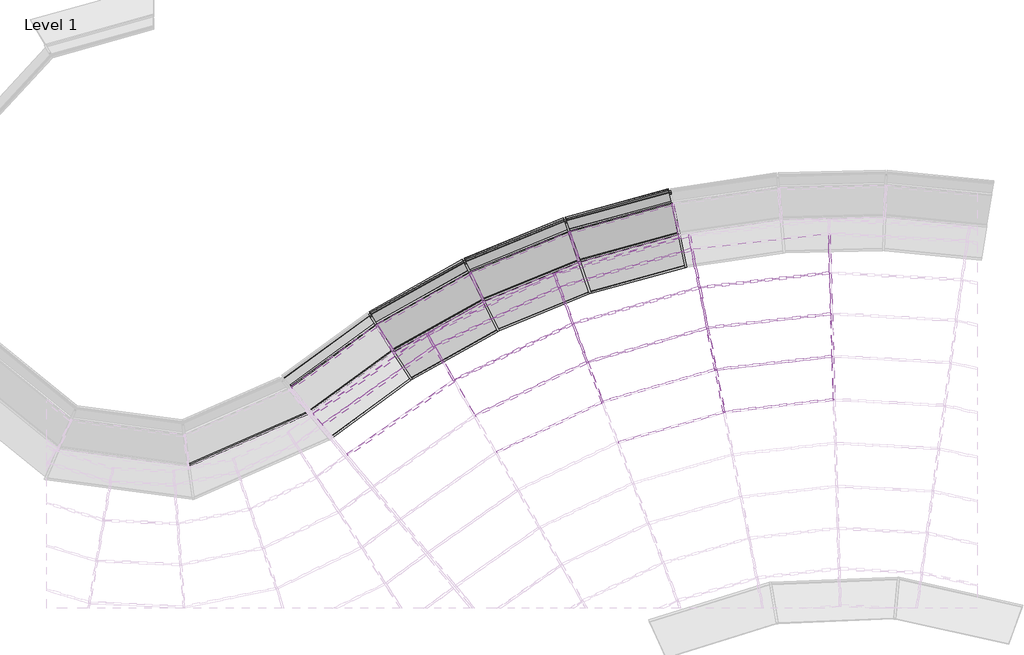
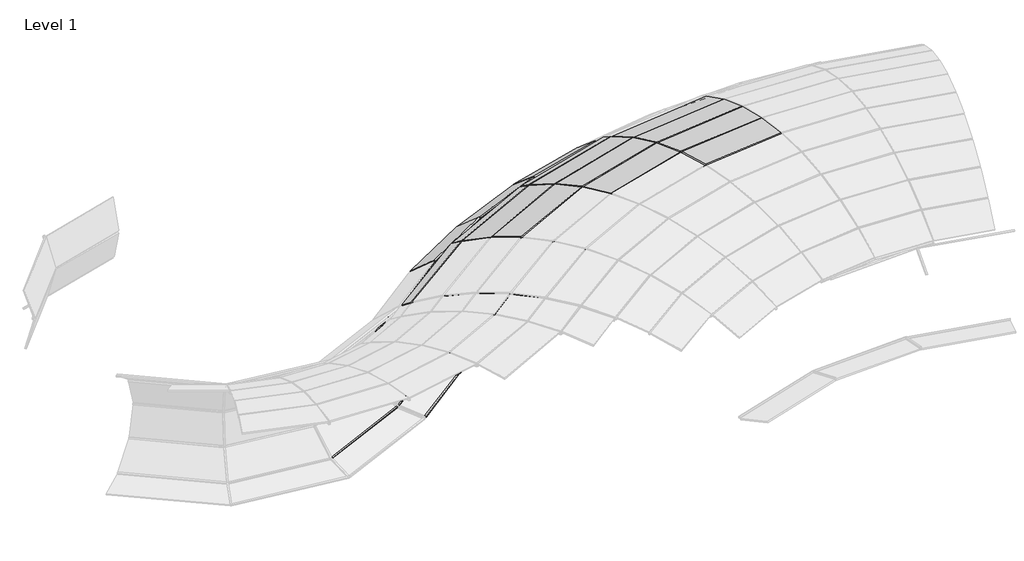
# One storey, part 9 of 23: 75 members, 27 plates.
"""IFC4 building model written with IfcOpenShell, lengths in millimetres."""

from ifc_helpers import new_model, si_unit, origin, place, context, project, spatial, transform, mapped, element, save
from components import member_0cd36c09, member_d0a40a1c, member_ff9adfd2, member_c628317b, member_6de91377, member_1c681369, member_2317d74f, member_20199af6, member_3d776555, member_f0155a20, member_c9893ebc, member_775132e8, member_8c9da58c, member_391bee44, member_01ebdf2a, member_d6b8231b, member_b171f0c8, member_cca2ed68, member_07455e61, member_515abc7c, member_13d284af, member_42775d8c, member_6834bcaf, member_93a8f3f7, member_a3fa0b53, member_9aefb50d, member_b335b832, member_cb0bb3a9, system_panel_glazed_1b2c1e4f, system_panel_glazed_33c7ebbf, system_panel_glazed_ea272296, system_panel_glazed_e73c3b5f, system_panel_glazed_61039f9e, system_panel_glazed_c38b7309, system_panel_glazed_e73b46dd, system_panel_glazed_e5225984, system_panel_glazed_94c3709e, system_panel_glazed_130e820a, system_panel_glazed_5e04bf78

model = new_model("IFC4")

# Units and contexts
model_context = context("Model", 3, world=origin())
ifc_project = project(units=[si_unit("LENGTHUNIT", "METRE", prefix="MILLI")], contexts=[model_context])

# Site, building, storey
site = spatial("IfcSite", under=ifc_project)
building = spatial("IfcBuilding", under=site)
storey = spatial("IfcBuildingStorey", under=building, Name="Level 1", Elevation=0.0)

# Members
placement = place(None, origin())
member_shape = member_0cd36c09(model_context)
element("IfcMember", 1, ObjectType="Rectangular Mullion : 1\" Square", at=placement, inside=storey, context=model_context, shape_type="MappedRepresentation", body=[
    mapped(member_shape, transform((-3625.4286612, -3828.1534303, 2806.2019711), x_axis=(0.9355040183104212, 0.35331605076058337, 0.0), y_axis=(-0.07543399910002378, 0.19973281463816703, 0.9769424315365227), z_axis=(0.34516944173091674, -0.913933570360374, 0.2135028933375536))),
])
element("IfcMember", 2, ObjectType="Rectangular Mullion : 1\" Square", at=placement, inside=storey, context=model_context, shape_type="MappedRepresentation", body=[
    mapped(member_shape, transform((-3835.8439528, -3271.0195258, 2676.0506073), x_axis=(0.9355040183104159, 0.35331605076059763, 0.0), y_axis=(-0.11599393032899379, 0.30712668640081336, 0.944573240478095), z_axis=(0.3337328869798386, -0.883652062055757, 0.3283007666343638))),
])
element("IfcMember", 3, ObjectType="Rectangular Mullion : 1\" Square", at=placement, inside=storey, context=model_context, shape_type="MappedRepresentation", body=[
    mapped(member_shape, transform((-1916.2332952, -3968.8634799, 2864.5209769), x_axis=(0.9809843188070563, 0.19408700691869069, 0.0), y_axis=(-0.01856784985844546, 0.09384847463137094, 0.9954133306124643), z_axis=(0.19319679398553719, -0.9764848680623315, 0.09566766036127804))),
])
element("IfcMember", 4, ObjectType="Rectangular Mullion : 1\" Square", at=placement, inside=storey, context=model_context, shape_type="MappedRepresentation", body=[
    mapped(member_shape, transform((-2034.0060608, -3373.5983043, 2806.2019711), x_axis=(0.9809843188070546, 0.19408700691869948, 0.0), y_axis=(-0.041438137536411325, 0.2094429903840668, 0.9769424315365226), z_axis=(0.1896118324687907, -0.9583652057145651, 0.21350289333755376))),
])
element("IfcMember", 5, ObjectType="Rectangular Mullion : 1\" Square", at=placement, inside=storey, context=model_context, shape_type="MappedRepresentation", body=[
    mapped(member_shape, transform((-2149.5934339, -2789.3788749, 2676.0506073), x_axis=(0.9809843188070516, 0.19408700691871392, 0.0), y_axis=(-0.06371891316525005, 0.3220579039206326, 0.9445732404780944), z_axis=(0.18332939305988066, -0.9266115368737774, 0.32830076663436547))),
])
element("IfcMember", 6, ObjectType="Rectangular Mullion : 1\" Square", at=placement, inside=storey, context=model_context, shape_type="MappedRepresentation", body=[
    mapped(member_shape, transform((-371.466913, -3794.4447118, 2864.5209769), x_axis=(0.9995637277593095, 0.029535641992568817, 0.0), y_axis=(-0.002825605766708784, 0.09562592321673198, 0.9954133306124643), z_axis=(0.029400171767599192, -0.9949790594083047, 0.09566766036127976))),
])
element("IfcMember", 7, ObjectType="Rectangular Mullion : 1\" Square", at=placement, inside=storey, context=model_context, shape_type="MappedRepresentation", body=[
    mapped(member_shape, transform((-389.3892577, -3187.9054772, 2806.2019711), x_axis=(0.9995637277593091, 0.02953564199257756, 0.0), y_axis=(-0.0063059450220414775, 0.213409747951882, 0.9769424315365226), z_axis=(0.02885462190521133, -0.9765162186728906, 0.2135028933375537))),
])
element("IfcMember", 8, ObjectType="Rectangular Mullion : 1\" Square", at=placement, inside=storey, context=model_context, shape_type="MappedRepresentation", body=[
    mapped(member_shape, transform((-406.9790352, -2592.6211903, 2676.0506073), x_axis=(0.9995637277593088, 0.02953564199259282, 0.0), y_axis=(-0.0096965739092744, 0.3281575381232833, 0.9445732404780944), z_axis=(0.02789857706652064, -0.9441611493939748, 0.3283007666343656))),
])
member_2_shape = member_d0a40a1c(model_context)
element("IfcMember", 9, ObjectType="Rectangular Mullion : 1\" Square", at=placement, inside=storey, context=model_context, shape_type="MappedRepresentation", body=[
    mapped(member_2_shape, transform((-5709.0402844, -3526.6209381, 2475.91846), x_axis=(0.8643700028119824, 0.5028563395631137, 0.0), y_axis=(-0.22046636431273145, 0.378964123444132, 0.898766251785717), z_axis=(0.4519503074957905, -0.7768665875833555, 0.4384281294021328))),
])
element("IfcMember", 10, ObjectType="Rectangular Mullion : 1\" Square", at=placement, inside=storey, context=model_context, shape_type="MappedRepresentation", body=[
    mapped(member_2_shape, transform((-4039.2875207, -2732.3452287, 2475.91846), x_axis=(0.9355040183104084, 0.35331605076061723, 0.0), y_axis=(-0.15490369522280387, 0.4101512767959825, 0.8987662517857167), z_axis=(0.3175485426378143, -0.8407994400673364, 0.43842812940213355))),
])
element("IfcMember", 11, ObjectType="Rectangular Mullion : 1\" Square", at=placement, inside=storey, context=model_context, shape_type="MappedRepresentation", body=[
    mapped(member_2_shape, transform((-2261.3510319, -2224.516482, 2475.91846), x_axis=(0.9809843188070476, 0.19408700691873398, 0.0), y_axis=(-0.08509320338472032, 0.4300911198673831, 0.8987662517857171), z_axis=(0.17443885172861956, -0.881675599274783, 0.43842812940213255))),
])
element("IfcMember", 12, ObjectType="Rectangular Mullion : 1\" Square", at=placement, inside=storey, context=model_context, shape_type="MappedRepresentation", body=[
    mapped(member_2_shape, transform((-423.9860078, -2017.0605536, 2475.91846), x_axis=(0.9995637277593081, 0.029535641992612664, 0.0), y_axis=(-0.012949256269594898, 0.4382368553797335, 0.898766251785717), z_axis=(0.026545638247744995, -0.8983741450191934, 0.43842812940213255))),
])
member_3_shape = member_ff9adfd2(model_context)
element("IfcMember", 13, ObjectType="Rectangular Mullion : 1\" Square", at=placement, inside=storey, context=model_context, shape_type="MappedRepresentation", body=[
    mapped(member_3_shape, transform((-5984.5491919, -3053.0430663, 2208.6526723), x_axis=(0.8643700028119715, 0.5028563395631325, 0.0), y_axis=(-0.25726402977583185, 0.44221637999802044, 0.8592205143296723), z_axis=(0.43206448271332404, -0.7426844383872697, 0.5116054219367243))),
])
element("IfcMember", 14, ObjectType="Rectangular Mullion : 1\" Square", at=placement, inside=storey, context=model_context, shape_type="MappedRepresentation", body=[
    mapped(member_3_shape, transform((-4232.8651123, -2219.7938901, 2208.6526723), x_axis=(0.9355040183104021, 0.353316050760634, 0.0), y_axis=(-0.18075840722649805, 0.4786089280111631, 0.8592205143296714), z_axis=(0.30357639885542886, -0.8038042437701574, 0.5116054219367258))),
])
element("IfcMember", 15, ObjectType="Rectangular Mullion : 1\" Square", at=placement, inside=storey, context=model_context, shape_type="MappedRepresentation", body=[
    mapped(member_3_shape, transform((-2367.6889559, -1687.0470367, 2208.6526723), x_axis=(0.9809843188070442, 0.19408700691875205, 0.0), y_axis=(-0.09929596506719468, 0.5018768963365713, 0.8592205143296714), z_axis=(0.1667635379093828, -0.8428818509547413, 0.5116054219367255))),
])
member_4_shape = member_c628317b(model_context)
element("IfcMember", 16, ObjectType="Rectangular Mullion : 1\" Square", at=placement, inside=storey, context=model_context, shape_type="MappedRepresentation", body=[
    mapped(member_4_shape, transform((-1928.4449271, -3972.3514659, 2864.5209769), x_axis=(-0.274468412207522, 0.9609290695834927, -0.03581080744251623), y_axis=(-0.009835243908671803, 0.03443373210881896, 0.999358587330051), z_axis=(0.9615458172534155, 0.2746445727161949, 0.0))),
])
element("IfcMember", 17, ObjectType="Rectangular Mullion : 1\" Square", at=placement, inside=storey, context=model_context, shape_type="MappedRepresentation", body=[
    mapped(member_4_shape, transform((-384.0867255, -3795.8696083, 2864.5209769), x_axis=(-0.11212460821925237, 0.993048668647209, -0.03581080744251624), y_axis=(-0.004017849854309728, 0.035584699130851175, 0.9993585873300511), z_axis=(0.9936860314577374, 0.1121965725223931, 0.0))),
])
member_5_shape = member_6de91377(model_context)
element("IfcMember", 18, ObjectType="Rectangular Mullion : 1\" Square", at=placement, inside=storey, context=model_context, shape_type="MappedRepresentation", body=[
    mapped(member_5_shape, transform((-3636.8972407, -3833.6088572, 2806.2019711), x_axis=(-0.42442622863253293, 0.8922429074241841, -0.154158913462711), y_axis=(-0.06622068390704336, 0.13921132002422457, 0.9880460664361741), z_axis=(0.9030377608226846, 0.42956117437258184, 0.0))),
])
element("IfcMember", 19, ObjectType="Rectangular Mullion : 1\" Square", at=placement, inside=storey, context=model_context, shape_type="MappedRepresentation", body=[
    mapped(member_5_shape, transform((-2046.2176927, -3377.0862904, 2806.2019711), x_axis=(-0.2713614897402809, 0.9500515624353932, -0.1541589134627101), y_axis=(-0.042338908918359, 0.14823085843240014, 0.9880460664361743), z_axis=(0.9615458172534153, 0.27464457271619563, 0.0))),
])
element("IfcMember", 20, ObjectType="Rectangular Mullion : 1\" Square", at=placement, inside=storey, context=model_context, shape_type="MappedRepresentation", body=[
    mapped(member_5_shape, transform((-402.0090703, -3189.3303737, 2806.2019711), x_axis=(-0.11085538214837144, 0.9818075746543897, -0.1541589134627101), y_axis=(-0.01729610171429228, 0.1531855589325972, 0.9880460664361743), z_axis=(0.9936860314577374, 0.11219657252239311, 0.0))),
])
member_6_shape = member_1c681369(model_context)
element("IfcMember", 21, ObjectType="Rectangular Mullion : 1\" Square", at=placement, inside=storey, context=model_context, shape_type="MappedRepresentation", body=[
    mapped(member_6_shape, transform((-3847.3125324, -3276.4749527, 2676.0506073), x_axis=(-0.4135643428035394, 0.8694086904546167, -0.2703572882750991), y_axis=(-0.11613499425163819, 0.24414284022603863, 0.9627600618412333), z_axis=(0.9030377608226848, 0.4295611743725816, 0.0))),
])
element("IfcMember", 22, ObjectType="Rectangular Mullion : 1\" Square", at=placement, inside=storey, context=model_context, shape_type="MappedRepresentation", body=[
    mapped(member_6_shape, transform((-2161.8050658, -2792.866861, 2676.0506073), x_axis=(-0.2644168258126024, 0.9257379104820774, -0.2703572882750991), y_axis=(-0.07425216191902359, 0.25996091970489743, 0.9627600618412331), z_axis=(0.9615458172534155, 0.27464457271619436, 0.0))),
])
element("IfcMember", 23, ObjectType="Rectangular Mullion : 1\" Square", at=placement, inside=storey, context=model_context, shape_type="MappedRepresentation", body=[
    mapped(member_6_shape, transform((-419.5988478, -2594.0460868, 2676.0506073), x_axis=(-0.10801837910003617, 0.9566812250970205, -0.27035728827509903), y_axis=(-0.030333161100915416, 0.2686502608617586, 0.9627600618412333), z_axis=(0.993686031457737, 0.11219657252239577, 0.0))),
])
member_7_shape = member_2317d74f(model_context)
element("IfcMember", 24, ObjectType="Rectangular Mullion : 1\" Square", at=placement, inside=storey, context=model_context, shape_type="MappedRepresentation", body=[
    mapped(member_7_shape, transform((-5719.4513163, -3533.8942053, 2475.91846), x_axis=(-0.5290813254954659, 0.7573326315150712, -0.3827796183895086), y_axis=(-0.21921719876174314, 0.31378982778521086, 0.9238396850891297), z_axis=(0.8197662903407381, 0.5726982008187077, 0.0))),
])
member_8_shape = member_20199af6(model_context)
element("IfcMember", 25, ObjectType="Rectangular Mullion : 1\" Square", at=placement, inside=storey, context=model_context, shape_type="MappedRepresentation", body=[
    mapped(member_8_shape, transform((-4050.7561003, -2737.8006557, 2475.91846), x_axis=(-0.3968456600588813, 0.834262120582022, -0.3827796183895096), y_axis=(-0.16442726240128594, 0.34566444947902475, 0.9238396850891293), z_axis=(0.9030377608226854, 0.4295611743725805, 0.0))),
])
element("IfcMember", 26, ObjectType="Rectangular Mullion : 1\" Square", at=placement, inside=storey, context=model_context, shape_type="MappedRepresentation", body=[
    mapped(member_8_shape, transform((-2273.5626638, -2228.0044681, 2475.91846), x_axis=(-0.253727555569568, 0.8883141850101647, -0.38277961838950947), y_axis=(-0.10512834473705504, 0.3680601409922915, 0.9238396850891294), z_axis=(0.9615458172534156, 0.274644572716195, 0.0))),
])
element("IfcMember", 27, ObjectType="Rectangular Mullion : 1\" Square", at=placement, inside=storey, context=model_context, shape_type="MappedRepresentation", body=[
    mapped(member_8_shape, transform((-436.6058204, -2018.4854501, 2475.91846), x_axis=(-0.10365164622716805, 0.9180065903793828, -0.3827796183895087), y_axis=(-0.04294656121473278, 0.38036275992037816, 0.9238396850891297), z_axis=(0.9936860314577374, 0.1121965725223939, 0.0))),
])
member_9_shape = member_3d776555(model_context)
element("IfcMember", 28, ObjectType="Rectangular Mullion : 1\" Square", at=placement, inside=storey, context=model_context, shape_type="MappedRepresentation", body=[
    mapped(member_9_shape, transform((-5994.9602237, -3060.3163335, 2208.6526723), x_axis=(-0.49928391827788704, 0.7146803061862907, -0.4898444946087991), y_axis=(-0.28053306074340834, 0.401558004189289, 0.871809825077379), z_axis=(0.819766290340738, 0.5726982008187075, 0.0))),
])
member_10_shape = member_f0155a20(model_context)
element("IfcMember", 29, ObjectType="Rectangular Mullion : 1\" Square", at=placement, inside=storey, context=model_context, shape_type="MappedRepresentation", body=[
    mapped(member_10_shape, transform((-4244.3336919, -2225.249317, 2208.6526723), x_axis=(-0.3744956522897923, 0.7872771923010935, -0.4898444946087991), y_axis=(-0.21041817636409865, 0.44234807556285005, 0.871809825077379), z_axis=(0.9030377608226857, 0.42956117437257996, 0.0))),
])
element("IfcMember", 30, ObjectType="Rectangular Mullion : 1\" Square", at=placement, inside=storey, context=model_context, shape_type="MappedRepresentation", body=[
    mapped(member_10_shape, transform((-2379.9005878, -1690.5350228, 2208.6526723), x_axis=(-0.23943783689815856, 0.8382850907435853, -0.4898444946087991), y_axis=(-0.13453313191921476, 0.4710079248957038, 0.871809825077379), z_axis=(0.9615458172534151, 0.2746445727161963, 0.0))),
])
member_11_shape = member_c9893ebc(model_context)
element("IfcMember", 31, ObjectType="Rectangular Mullion : 1\" Square", at=placement, inside=storey, context=model_context, shape_type="MappedRepresentation", body=[
    mapped(member_11_shape, transform((-6098.873932, -2881.6969442, 2085.6089632), x_axis=(-0.4916301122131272, 0.7037245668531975, -0.512905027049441), y_axis=(-0.29373978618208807, 0.42046225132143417, 0.8584453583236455), z_axis=(0.8197662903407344, 0.5726982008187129, 0.0))),
])
member_12_shape = member_775132e8(model_context)
element("IfcMember", 32, ObjectType="Rectangular Mullion : 1\" Square", at=placement, inside=storey, context=model_context, shape_type="MappedRepresentation", body=[
    mapped(member_12_shape, transform((-4317.3453617, -2031.9303033, 2085.6089632), x_axis=(-0.36875479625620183, 0.7752085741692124, -0.5129050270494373), y_axis=(-0.22032408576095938, 0.4631726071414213, 0.8584453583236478), z_axis=(0.9030377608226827, 0.42956117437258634, 0.0))),
])
element("IfcMember", 33, ObjectType="Rectangular Mullion : 1\" Square", at=placement, inside=storey, context=model_context, shape_type="MappedRepresentation", body=[
    mapped(member_12_shape, transform((-2420.0080679, -1487.8176455, 2085.6089632), x_axis=(-0.2357673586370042, 0.8254345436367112, -0.5129050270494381), y_axis=(-0.1408665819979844, 0.4931816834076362, 0.8584453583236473), z_axis=(0.9615458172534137, 0.27464457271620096, 0.0))),
])
member_13_shape = member_8c9da58c(model_context)
element("IfcMember", 34, ObjectType="Rectangular Mullion : 1\" Square", at=placement, inside=storey, context=model_context, shape_type="MappedRepresentation", body=[
    mapped(member_13_shape, transform((-4148.8580129, -1273.5549918, 1116.1918244), x_axis=(0.9466000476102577, 0.3224102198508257, 0.0), y_axis=(-0.31176891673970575, 0.9153570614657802, -0.2547971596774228), z_axis=(-0.08214920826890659, 0.24119100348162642, 0.9669945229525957))),
])
element("IfcMember", 35, ObjectType="Rectangular Mullion : 1\" Square", at=placement, inside=storey, context=model_context, shape_type="MappedRepresentation", body=[
    mapped(member_13_shape, transform((-2638.2286101, -1052.286179, 1696.6281859), x_axis=(0.9786921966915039, 0.2053328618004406, 0.0), y_axis=(-0.1955096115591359, 0.9318709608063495, 0.30560187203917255), z_axis=(0.06275010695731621, -0.2990901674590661, 0.9521593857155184))),
])
element("IfcMember", 36, ObjectType="Rectangular Mullion : 1\" Square", at=placement, inside=storey, context=model_context, shape_type="MappedRepresentation", body=[
    mapped(member_13_shape, transform((-6792.8117504, -2755.2417461, 1696.6281859), x_axis=(0.8412441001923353, 0.5406554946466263, 0.0), y_axis=(-0.5147902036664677, 0.8009984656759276, 0.30560187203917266), z_axis=(0.16522533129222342, -0.2570857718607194, 0.9521593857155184))),
])
element("IfcMember", 37, ObjectType="Rectangular Mullion : 1\" Square", at=placement, inside=storey, context=model_context, shape_type="MappedRepresentation", body=[
    mapped(member_13_shape, transform((-6893.5331124, -2598.5222596, 1116.1918244), x_axis=(0.8412441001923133, 0.5406554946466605, 0.0), y_axis=(-0.5228109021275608, 0.8134784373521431, -0.2547971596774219), z_axis=(-0.13775748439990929, 0.21434660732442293, 0.9669945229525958))),
])
element("IfcMember", 38, ObjectType="Rectangular Mullion : 1\" Square", at=placement, inside=storey, context=model_context, shape_type="MappedRepresentation", body=[
    mapped(member_13_shape, transform((-5480.4921682, -2020.3558732, 1696.6281859), x_axis=(0.9005578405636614, 0.4347362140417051, 0.0), y_axis=(-0.4139381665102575, 0.8574746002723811, 0.30560187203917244), z_axis=(0.13285620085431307, -0.2752121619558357, 0.9521593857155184))),
])
element("IfcMember", 39, ObjectType="Rectangular Mullion : 1\" Square", at=placement, inside=storey, context=model_context, shape_type="MappedRepresentation", body=[
    mapped(member_13_shape, transform((-5561.4813083, -1852.5865393, 1116.1918244), x_axis=(0.9005578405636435, 0.434736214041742, 0.0), y_axis=(-0.4203875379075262, 0.8708344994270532, -0.2547971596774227), z_axis=(-0.11076955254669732, 0.229459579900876, 0.9669945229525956))),
])
element("IfcMember", 40, ObjectType="Rectangular Mullion : 1\" Square", at=placement, inside=storey, context=model_context, shape_type="MappedRepresentation", body=[
    mapped(member_13_shape, transform((-4088.7946329, -1449.9017541, 1696.6281859), x_axis=(0.946600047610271, 0.322410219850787, 0.0), y_axis=(-0.3069859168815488, 0.9013141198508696, 0.3056018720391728), z_axis=(0.09852916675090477, -0.2892827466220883, 0.9521593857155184))),
])
member_14_shape = member_391bee44(model_context)
element("IfcMember", 41, ObjectType="Rectangular Mullion : 1\" Square", at=placement, inside=storey, context=model_context, shape_type="MappedRepresentation", body=[
    mapped(member_14_shape, transform((-4098.7798556, -1420.5850275, 526.7119632), x_axis=(0.9466000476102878, 0.32241021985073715, 0.0), y_axis=(-0.21857318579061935, 0.6417333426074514, -0.7351218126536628), z_axis=(-0.2370107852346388, 0.6958663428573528, 0.6779350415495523))),
])
element("IfcMember", 42, ObjectType="Rectangular Mullion : 1\" Square", at=placement, inside=storey, context=model_context, shape_type="MappedRepresentation", body=[
    mapped(member_14_shape, transform((-2644.5878824, -1021.9755408, 526.7119632), x_axis=(0.9786921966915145, 0.20533286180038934, 0.0), y_axis=(-0.1392023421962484, 0.6634897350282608, -0.7351218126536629), z_axis=(-0.1509446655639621, 0.7194579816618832, 0.6779350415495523))),
])
element("IfcMember", 43, ObjectType="Rectangular Mullion : 1\" Square", at=placement, inside=storey, context=model_context, shape_type="MappedRepresentation", body=[
    mapped(member_14_shape, transform((-6809.5561499, -2729.1879514, 526.7119632), x_axis=(0.8412441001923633, 0.5406554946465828, 0.0), y_axis=(-0.36652930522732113, 0.5703088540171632, -0.735121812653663), z_axis=(-0.3974476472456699, 0.618416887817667, 0.6779350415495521))),
])
element("IfcMember", 44, ObjectType="Rectangular Mullion : 1\" Square", at=placement, inside=storey, context=model_context, shape_type="MappedRepresentation", body=[
    mapped(member_14_shape, transform((-5493.956189, -1992.4650992, 526.7119632), x_axis=(0.900557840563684, 0.43473621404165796, 0.0), y_axis=(-0.29472291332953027, 0.610519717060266, -0.7351218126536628), z_axis=(-0.31958407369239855, 0.6620197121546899, 0.6779350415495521))),
])
member_15_shape = member_01ebdf2a(model_context)
element("IfcMember", 45, ObjectType="Rectangular Mullion : 1\" Square", at=placement, inside=storey, context=model_context, shape_type="MappedRepresentation", body=[
    mapped(member_15_shape, transform((-3954.2980809, -1844.7851501, 113.4427618), x_axis=(0.9466000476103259, 0.3224102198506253, 0.0), y_axis=(-0.07363502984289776, 0.2161932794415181, -0.9735698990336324), z_axis=(-0.3138888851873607, 0.9215813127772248, 0.22838925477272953))),
])
element("IfcMember", 46, ObjectType="Rectangular Mullion : 1\" Square", at=placement, inside=storey, context=model_context, shape_type="MappedRepresentation", body=[
    mapped(member_15_shape, transform((-2552.5720142, -1460.5571264, 113.4427618), x_axis=(0.9786921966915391, 0.2053328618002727, 0.0), y_axis=(-0.046895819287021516, 0.22352278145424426, -0.9735698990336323), z_axis=(-0.19990589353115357, 0.9528252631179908, 0.2283892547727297))),
])
element("IfcMember", 47, ObjectType="Rectangular Mullion : 1\" Square", at=placement, inside=storey, context=model_context, shape_type="MappedRepresentation", body=[
    mapped(member_15_shape, transform((-6567.2720641, -3106.1748862, 113.4427618), x_axis=(0.8412441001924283, 0.5406554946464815, 0.0), y_axis=(-0.12347990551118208, 0.19213111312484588, -0.9735698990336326), z_axis=(-0.5263659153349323, 0.819009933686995, 0.2283892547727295))),
])
element("IfcMember", 48, ObjectType="Rectangular Mullion : 1\" Square", at=placement, inside=storey, context=model_context, shape_type="MappedRepresentation", body=[
    mapped(member_15_shape, transform((-5299.1377377, -2396.0323158, 113.4427618), x_axis=(0.9005578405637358, 0.43473621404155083, 0.0), y_axis=(-0.09928907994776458, 0.20567773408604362, -0.9735698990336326), z_axis=(-0.4232460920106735, 0.8767560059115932, 0.2283892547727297))),
])
member_16_shape = member_d6b8231b(model_context)
element("IfcMember", 49, ObjectType="Rectangular Mullion : 1\" Square", at=placement, inside=storey, context=model_context, shape_type="MappedRepresentation", body=[
    mapped(member_16_shape, transform((-6539.04548, -3150.0946237, 2085.6089632), x_axis=(0.8412441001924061, 0.540655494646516, 0.0), y_axis=(-0.3449878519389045, 0.5367909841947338, 0.7699602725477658), z_axis=(0.41628325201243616, -0.6477245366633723, 0.6380918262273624))),
])
element("IfcMember", 50, ObjectType="Rectangular Mullion : 1\" Square", at=placement, inside=storey, context=model_context, shape_type="MappedRepresentation", body=[
    mapped(member_16_shape, transform((-5276.4409956, -2443.0487096, 2085.6089632), x_axis=(0.9005578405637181, 0.43473621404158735, 0.0), y_axis=(-0.27740162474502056, 0.574638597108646, 0.7699602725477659), z_axis=(0.3347296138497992, -0.6933937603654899, 0.638091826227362))),
])
element("IfcMember", 51, ObjectType="Rectangular Mullion : 1\" Square", at=placement, inside=storey, context=model_context, shape_type="MappedRepresentation", body=[
    mapped(member_16_shape, transform((-3937.4656631, -1894.2053191, 2085.6089632), x_axis=(0.9466000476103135, 0.32241021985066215, 0.0), y_axis=(-0.2057273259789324, 0.6040177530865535, 0.7699602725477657), z_axis=(0.24824306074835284, -0.7288444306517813, 0.6380918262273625))),
])
element("IfcMember", 52, ObjectType="Rectangular Mullion : 1\" Square", at=placement, inside=storey, context=model_context, shape_type="MappedRepresentation", body=[
    mapped(member_16_shape, transform((-2541.8519802, -1511.6527648, 2085.6089632), x_axis=(0.978692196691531, 0.20533286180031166, 0.0), y_axis=(-0.1310212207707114, 0.6244954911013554, 0.7699602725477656), z_axis=(0.158098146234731, -0.753554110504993, 0.6380918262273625))),
])
member_17_shape = member_b171f0c8(model_context)
element("IfcMember", 53, ObjectType="Rectangular Mullion : 1\" Square", at=placement, inside=storey, context=model_context, shape_type="MappedRepresentation", body=[
    mapped(member_17_shape, transform((-5572.5621818, -1858.7917179, 1116.1918244), x_axis=(-0.012962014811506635, 0.023146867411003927, -0.9996480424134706), y_axis=(-0.488424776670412, 0.8722026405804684, 0.02652906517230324), z_axis=(0.8725097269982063, 0.48859674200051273, 0.0))),
])
element("IfcMember", 54, ObjectType="Rectangular Mullion : 1\" Square", at=placement, inside=storey, context=model_context, shape_type="MappedRepresentation", body=[
    mapped(member_17_shape, transform((-4160.6091325, -1278.3717529, 1116.1918244), x_axis=(-0.01006174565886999, 0.024546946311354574, -0.9996480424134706), y_axis=(-0.3791390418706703, 0.9249593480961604, 0.02652906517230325), z_axis=(0.9252850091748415, 0.3792725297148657, 0.0))),
])
member_18_shape = member_cca2ed68(model_context)
element("IfcMember", 55, ObjectType="Rectangular Mullion : 1\" Square", at=placement, inside=storey, context=model_context, shape_type="MappedRepresentation", body=[
    mapped(member_18_shape, transform((-6819.8034783, -2736.6901017, 526.7119632), x_axis=(0.3051754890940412, -0.4168449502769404, -0.8562173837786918), y_axis=(-0.5057851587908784, 0.6908614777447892, -0.5166157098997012), z_axis=(0.8068762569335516, 0.5907204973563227, 0.0))),
])
member_19_shape = member_07455e61(model_context)
element("IfcMember", 56, ObjectType="Rectangular Mullion : 1\" Square", at=placement, inside=storey, context=model_context, shape_type="MappedRepresentation", body=[
    mapped(member_19_shape, transform((-5505.0370626, -1998.6702778, 526.7119632), x_axis=(0.25241675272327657, -0.4507522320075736, -0.8562173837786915), y_axis=(-0.4183450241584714, 0.7470579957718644, -0.5166157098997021), z_axis=(0.8725097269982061, 0.48859674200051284, 0.0))),
])
element("IfcMember", 57, ObjectType="Rectangular Mullion : 1\" Square", at=placement, inside=storey, context=model_context, shape_type="MappedRepresentation", body=[
    mapped(member_19_shape, transform((-4110.5309752, -1425.4017886, 526.7119632), x_axis=(0.1959381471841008, -0.4780167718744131, -0.8562173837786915), y_axis=(-0.3247397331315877, 0.7922451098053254, -0.516615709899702), z_axis=(0.9252850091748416, 0.37927252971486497, 0.0))),
])
element("IfcMember", 58, ObjectType="Rectangular Mullion : 1\" Square", at=placement, inside=storey, context=model_context, shape_type="MappedRepresentation", body=[
    mapped(member_19_shape, transform((-2656.8360716, -1025.3328998, 526.7119632), x_axis=(0.13657199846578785, -0.49823677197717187, -0.8562173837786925), y_axis=(-0.22634874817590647, 0.8257568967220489, -0.5166157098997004), z_axis=(0.9644243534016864, 0.2643589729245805, 0.0))),
])
member_20_shape = member_515abc7c(model_context)
element("IfcMember", 59, ObjectType="Rectangular Mullion : 1\" Square", at=placement, inside=storey, context=model_context, shape_type="MappedRepresentation", body=[
    mapped(member_20_shape, transform((-4100.5457525, -1454.7185153, 1696.6281859), x_axis=(-0.212867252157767, 0.5193175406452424, -0.827645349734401), y_axis=(-0.31390314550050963, 0.7658078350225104, 0.5612514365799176), z_axis=(0.9252850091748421, 0.37927252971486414, 0.0))),
])
element("IfcMember", 60, ObjectType="Rectangular Mullion : 1\" Square", at=placement, inside=storey, context=model_context, shape_type="MappedRepresentation", body=[
    mapped(member_20_shape, transform((-2650.4767994, -1055.643538, 1696.6281859), x_axis=(-0.14837185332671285, 0.5412845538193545, -0.8276453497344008), y_axis=(-0.2187954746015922, 0.798201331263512, 0.5612514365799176), z_axis=(0.9644243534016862, 0.26435897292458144, 0.0))),
])
element("IfcMember", 61, ObjectType="Rectangular Mullion : 1\" Square", at=placement, inside=storey, context=model_context, shape_type="MappedRepresentation", body=[
    mapped(member_20_shape, transform((-5491.5730418, -2026.5610519, 1696.6281859), x_axis=(-0.2742256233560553, 0.48969733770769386, -0.8276453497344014), y_axis=(-0.40438482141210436, 0.722128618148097, 0.5612514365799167), z_axis=(0.8725097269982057, 0.48859674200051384, 0.0))),
])
member_21_shape = member_13d284af(model_context)
element("IfcMember", 62, ObjectType="Rectangular Mullion : 1\" Square", at=placement, inside=storey, context=model_context, shape_type="MappedRepresentation", body=[
    mapped(member_21_shape, transform((-6903.7804408, -2606.0244099, 1116.1918244), x_axis=(-0.01567126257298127, 0.021405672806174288, -0.9996480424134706), y_axis=(-0.5905125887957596, 0.8065922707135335, 0.026529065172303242), z_axis=(0.8068762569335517, 0.5907204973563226, 0.0))),
])
member_22_shape = member_42775d8c(model_context)
element("IfcMember", 63, ObjectType="Rectangular Mullion : 1\" Square", at=placement, inside=storey, context=model_context, shape_type="MappedRepresentation", body=[
    mapped(member_22_shape, transform((-6577.5193926, -3113.6770365, 113.4427618), x_axis=(0.5294456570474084, -0.7231797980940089, -0.44350679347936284), y_axis=(-0.2619885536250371, 0.3578551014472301, -0.8962710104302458), z_axis=(0.8068762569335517, 0.5907204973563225, 0.0))),
])
member_23_shape = member_6834bcaf(model_context)
element("IfcMember", 64, ObjectType="Rectangular Mullion : 1\" Square", at=placement, inside=storey, context=model_context, shape_type="MappedRepresentation", body=[
    mapped(member_23_shape, transform((-5310.2186112, -2402.2374944, 113.4427618), x_axis=(0.4379150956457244, -0.7820051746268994, -0.44350679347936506), y_axis=(-0.21669597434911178, 0.38696399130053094, -0.8962710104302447), z_axis=(0.8725097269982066, 0.48859674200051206, 0.0))),
])
element("IfcMember", 65, ObjectType="Rectangular Mullion : 1\" Square", at=placement, inside=storey, context=model_context, shape_type="MappedRepresentation", body=[
    mapped(member_23_shape, transform((-3966.0492005, -1849.6019113, 113.4427618), x_axis=(0.33993097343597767, -0.8293061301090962, -0.4435067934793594), y_axis=(-0.1682099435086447, 0.4103701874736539, -0.8962710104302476), z_axis=(0.9252850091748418, 0.3792725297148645, 0.0))),
])
element("IfcMember", 66, ObjectType="Rectangular Mullion : 1\" Square", at=placement, inside=storey, context=model_context, shape_type="MappedRepresentation", body=[
    mapped(member_23_shape, transform((-2564.8202035, -1463.9144854, 113.4427618), x_axis=(0.23693728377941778, -0.8643855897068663, -0.443506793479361), y_axis=(-0.1172450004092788, 0.4277287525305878, -0.8962710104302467), z_axis=(0.9644243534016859, 0.2643589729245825, 0.0))),
])
member_24_shape = member_93a8f3f7(model_context)
element("IfcMember", 67, ObjectType="Rectangular Mullion : 1\" Square", at=placement, inside=storey, context=model_context, shape_type="MappedRepresentation", body=[
    mapped(member_24_shape, transform((-6316.0692502, -3520.4857935, 0.0), x_axis=(0.5750522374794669, -0.7854746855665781, -0.22878907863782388), y_axis=(-0.13515039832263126, 0.18460447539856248, -0.9734760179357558), z_axis=(0.8068762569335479, 0.5907204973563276, 0.0))),
])
member_25_shape = member_a3fa0b53(model_context)
element("IfcMember", 68, ObjectType="Rectangular Mullion : 1\" Square", at=placement, inside=storey, context=model_context, shape_type="MappedRepresentation", body=[
    mapped(member_25_shape, transform((-5099.9889064, -2837.7291854, 0.0), x_axis=(0.47563721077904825, -0.8493672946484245, -0.22878907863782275), y_axis=(-0.11178559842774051, 0.19962069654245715, -0.973476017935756), z_axis=(0.8725097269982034, 0.4885967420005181, 0.0))),
])
element("IfcMember", 69, ObjectType="Rectangular Mullion : 1\" Square", at=placement, inside=storey, context=model_context, shape_type="MappedRepresentation", body=[
    mapped(member_25_shape, transform((-3810.1380913, -2307.3586892, 0.0), x_axis=(0.3692127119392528, -0.9007427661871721, -0.22878907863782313), y_axis=(-0.08677341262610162, 0.21169510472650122, -0.9734760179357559), z_axis=(0.9252850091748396, 0.3792725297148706, 0.0))),
])
element("IfcMember", 70, ObjectType="Rectangular Mullion : 1\" Square", at=placement, inside=storey, context=model_context, shape_type="MappedRepresentation", body=[
    mapped(member_25_shape, transform((-2465.5253541, -1937.1903823, 0.0), x_axis=(0.2573471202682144, -0.9388439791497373, -0.22878907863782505), y_axis=(-0.060482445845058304, 0.22064975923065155, -0.9734760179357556), z_axis=(0.9644243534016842, 0.26435897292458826, 0.0))),
])
member_26_shape = member_9aefb50d(model_context)
element("IfcMember", 71, ObjectType="Rectangular Mullion : 1\" Square", at=placement, inside=storey, context=model_context, shape_type="MappedRepresentation", body=[
    mapped(member_26_shape, transform((-6803.0590789, -2762.7438964, 1696.6281859), x_axis=(-0.33154272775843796, 0.45286045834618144, -0.827645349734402), y_axis=(-0.4889070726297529, 0.667807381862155, 0.5612514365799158), z_axis=(0.8068762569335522, 0.5907204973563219, 0.0))),
])
member_27_shape = member_b335b832(model_context)
element("IfcMember", 72, ObjectType="Rectangular Mullion : 1\" Square", at=placement, inside=storey, context=model_context, shape_type="MappedRepresentation", body=[
    mapped(member_27_shape, transform((-6527.9646064, -3143.889445, 2085.6089632), x_axis=(0.37591719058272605, -0.6712926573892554, 0.6387898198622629), y_axis=(-0.3121106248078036, 0.5573503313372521, 0.7693812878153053), z_axis=(-0.8725097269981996, -0.48859674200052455, 0.0))),
])
element("IfcMember", 73, ObjectType="Rectangular Mullion : 1\" Square", at=placement, inside=storey, context=model_context, shape_type="MappedRepresentation", body=[
    mapped(member_27_shape, transform((-5264.689876, -2438.2319484, 2085.6089632), x_axis=(0.291805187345, -0.7118969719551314, 0.6387898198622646), y_axis=(-0.2422754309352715, 0.5910626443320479, 0.7693812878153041), z_axis=(-0.9252850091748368, -0.3792725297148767, 0.0))),
])
element("IfcMember", 74, ObjectType="Rectangular Mullion : 1\" Square", at=placement, inside=storey, context=model_context, shape_type="MappedRepresentation", body=[
    mapped(member_27_shape, transform((-3925.2174738, -1890.8479601, 2085.6089632), x_axis=(0.20339284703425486, -0.7420100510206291, 0.638789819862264), y_axis=(-0.16886982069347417, 0.6160644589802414, 0.7693812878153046), z_axis=(-0.9644243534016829, -0.2643589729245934, 0.0))),
])
member_28_shape = member_cb0bb3a9(model_context)
element("IfcMember", 75, ObjectType="Rectangular Mullion : 1\" Square", at=placement, inside=storey, context=model_context, shape_type="MappedRepresentation", body=[
    mapped(member_28_shape, transform((-7766.1458225, -3981.821875, 113.4427618), x_axis=(0.36212467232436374, -0.8248651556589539, -0.4341234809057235), y_axis=(-0.17450877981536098, 0.3975045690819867, -0.9008533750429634), z_axis=(0.9156486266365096, 0.4019795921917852, 0.0))),
])

# Plates
system_panel_glazed_shape = system_panel_glazed_1b2c1e4f(model_context)
element("IfcPlate", 76, ObjectType="System Panel : Glazed", at=placement, inside=storey, context=model_context, shape_type="MappedRepresentation", body=[
    mapped(system_panel_glazed_shape, transform((-1145.2684202, -3869.092563, 2863.3018499), x_axis=(0.9936860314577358, 0.11219657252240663, 0.0), y_axis=(0.010770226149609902, -0.09538814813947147, -0.9953818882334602), z_axis=(-0.11167843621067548, 0.9890970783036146, -0.09599425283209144))),
])
system_panel_glazed_2_shape = system_panel_glazed_33c7ebbf(model_context)
element("IfcPlate", 77, ObjectType="System Panel : Glazed", at=placement, inside=storey, context=model_context, shape_type="MappedRepresentation", body=[
    mapped(system_panel_glazed_2_shape, transform((-2833.1243866, -3588.9476824, 2803.4815699), x_axis=(0.9615458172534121, 0.274644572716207, 0.0), y_axis=(0.05883019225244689, -0.2059677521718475, -0.97678876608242), z_axis=(-0.26826973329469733, 0.9392271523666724, -0.2142048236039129))),
])
element("IfcPlate", 78, ObjectType="System Panel : Glazed", at=placement, inside=storey, context=model_context, shape_type="MappedRepresentation", body=[
    mapped(system_panel_glazed_2_shape, transform((-1213.0894821, -3268.4249996, 2803.4815699), x_axis=(0.9936860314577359, 0.11219657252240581, 0.0), y_axis=(0.02403304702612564, -0.2128523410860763, -0.9767887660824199), z_axis=(-0.10959235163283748, 0.9706213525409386, -0.2142048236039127))),
])
system_panel_glazed_3_shape = system_panel_glazed_ea272296(model_context)
element("IfcPlate", 79, ObjectType="System Panel : Glazed", at=placement, inside=storey, context=model_context, shape_type="MappedRepresentation", body=[
    mapped(system_panel_glazed_3_shape, transform((-4632.8179341, -3636.8485903, 2671.8683773), x_axis=(0.9030377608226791, 0.4295611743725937, 0.0), y_axis=(0.1414585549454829, -0.2973788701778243, -0.9442220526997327), z_axis=(-0.40560113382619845, 0.8526681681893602, -0.3293094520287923))),
])
element("IfcPlate", 80, ObjectType="System Panel : Glazed", at=placement, inside=storey, context=model_context, shape_type="MappedRepresentation", body=[
    mapped(system_panel_glazed_3_shape, transform((-2996.0121267, -3018.6687082, 2671.8683773), x_axis=(0.9615458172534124, 0.2746445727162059, 0.0), y_axis=(0.09044305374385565, -0.316646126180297, -0.944222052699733), z_axis=(-0.2593254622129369, 0.9079127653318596, -0.32930945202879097))),
])
element("IfcPlate", 81, ObjectType="System Panel : Glazed", at=placement, inside=storey, context=model_context, shape_type="MappedRepresentation", body=[
    mapped(system_panel_glazed_3_shape, transform((-1279.6316532, -2679.0841272, 2671.8683773), x_axis=(0.9936860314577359, 0.11219657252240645, 0.0), y_axis=(0.03694739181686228, -0.3272302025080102, -0.9442220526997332), z_axis=(-0.10593847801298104, 0.9382602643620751, -0.3293094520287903))),
])
system_panel_glazed_4_shape = system_panel_glazed_e73c3b5f(model_context)
element("IfcPlate", 82, ObjectType="System Panel : Glazed", at=placement, inside=storey, context=model_context, shape_type="MappedRepresentation", body=[
    mapped(system_panel_glazed_4_shape, transform((-4879.0638065, -3119.1823428, 2470.3349411), x_axis=(0.9030377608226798, 0.4295611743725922, 0.0), y_axis=(0.18885535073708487, -0.3970179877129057, -0.8981705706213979), z_axis=(-0.3858192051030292, 0.811081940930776, -0.43964716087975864))),
])
element("IfcPlate", 83, ObjectType="System Panel : Glazed", at=placement, inside=storey, context=model_context, shape_type="MappedRepresentation", body=[
    mapped(system_panel_glazed_4_shape, transform((-3153.4520828, -2467.462727, 2470.3349411), x_axis=(0.9615458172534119, 0.2746445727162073, 0.0), y_axis=(0.12074670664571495, -0.42274088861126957, -0.898170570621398), z_axis=(-0.24667767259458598, 0.8636321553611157, -0.4396471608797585))),
])
element("IfcPlate", 84, ObjectType="System Panel : Glazed", at=placement, inside=storey, context=model_context, shape_type="MappedRepresentation", body=[
    mapped(system_panel_glazed_4_shape, transform((-1343.9483199, -2109.4537735, 2470.3349411), x_axis=(0.9936860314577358, 0.11219657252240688, 0.0), y_axis=(0.049326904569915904, -0.43687124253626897, -0.8981705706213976), z_axis=(-0.10077165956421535, 0.8924995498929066, -0.4396471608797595))),
])
system_panel_glazed_5_shape = system_panel_glazed_61039f9e(model_context)
element("IfcPlate", 85, ObjectType="System Panel : Glazed", at=placement, inside=storey, context=model_context, shape_type="MappedRepresentation", body=[
    mapped(system_panel_glazed_5_shape, transform((-6780.6525128, -3595.9108187, 2202.1387785), x_axis=(0.8197662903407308, 0.5726982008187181, 0.0), y_axis=(0.29373978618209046, -0.4204622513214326, -0.8584453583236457), z_axis=(-0.49163011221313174, 0.7037245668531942, -0.512905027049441))),
])
system_panel_glazed_6_shape = system_panel_glazed_c38b7309(model_context)
element("IfcPlate", 86, ObjectType="System Panel : Glazed", at=placement, inside=storey, context=model_context, shape_type="MappedRepresentation", body=[
    mapped(system_panel_glazed_6_shape, transform((-5113.390338, -2626.5733293, 2202.1387785), x_axis=(0.9030377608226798, 0.4295611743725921, 0.0), y_axis=(0.2203240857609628, -0.4631726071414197, -0.8584453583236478), z_axis=(-0.36875479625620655, 0.7752085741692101, -0.5129050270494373))),
])
element("IfcPlate", 87, ObjectType="System Panel : Glazed", at=placement, inside=storey, context=model_context, shape_type="MappedRepresentation", body=[
    mapped(system_panel_glazed_6_shape, transform((-3303.2712796, -1942.9374447, 2202.1387785), x_axis=(0.9615458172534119, 0.27464457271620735, 0.0), y_axis=(0.1408665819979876, -0.4931816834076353, -0.8584453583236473), z_axis=(-0.23576735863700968, 0.8254345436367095, -0.5129050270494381))),
])
system_panel_glazed_7_shape = system_panel_glazed_e73b46dd(model_context)
element("IfcPlate", 88, ObjectType="System Panel : Glazed", at=placement, inside=storey, context=model_context, shape_type="MappedRepresentation", body=[
    mapped(system_panel_glazed_7_shape, transform((-5917.2915344, -2779.5208331, 2069.3837017), x_axis=(0.8725097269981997, 0.4885967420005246, 0.0), y_axis=(0.31211062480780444, -0.5573503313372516, -0.7693812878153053), z_axis=(-0.37591719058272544, 0.6712926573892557, -0.6387898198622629))),
])
element("IfcPlate", 89, ObjectType="System Panel : Glazed", at=placement, inside=storey, context=model_context, shape_type="MappedRepresentation", body=[
    mapped(system_panel_glazed_7_shape, transform((-4614.3651811, -2150.5448312, 2069.3837017), x_axis=(0.9252850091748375, 0.3792725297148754, 0.0), y_axis=(0.24227543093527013, -0.5910626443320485, -0.769381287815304), z_axis=(-0.29180518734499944, 0.7118969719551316, -0.6387898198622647))),
])
element("IfcPlate", 90, ObjectType="System Panel : Glazed", at=placement, inside=storey, context=model_context, shape_type="MappedRepresentation", body=[
    mapped(system_panel_glazed_7_shape, transform((-3244.8249999, -1684.0819866, 2069.3837017), x_axis=(0.964424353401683, 0.2643589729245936, 0.0), y_axis=(0.16886982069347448, -0.6160644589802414, -0.7693812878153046), z_axis=(-0.2033928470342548, 0.7420100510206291, -0.6387898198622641))),
])
system_panel_glazed_8_shape = system_panel_glazed_e5225984(model_context)
element("IfcPlate", 91, ObjectType="System Panel : Glazed", at=placement, inside=storey, context=model_context, shape_type="MappedRepresentation", body=[
    mapped(system_panel_glazed_8_shape, transform((-6138.5451028, -2384.4181361, 1684.5336808), x_axis=(0.8725097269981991, 0.4885967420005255, 0.0), y_axis=(0.46530203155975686, -0.8309112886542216, -0.30509088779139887), z_axis=(-0.14906641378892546, 0.26619476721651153, -0.9523232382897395))),
])
element("IfcPlate", 92, ObjectType="System Panel : Glazed", at=placement, inside=storey, context=model_context, shape_type="MappedRepresentation", body=[
    mapped(system_panel_glazed_8_shape, transform((-4786.1129505, -1731.5436542, 1684.5336808), x_axis=(0.9252850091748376, 0.37927252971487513, 0.0), y_axis=(0.3611900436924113, -0.8811704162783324, -0.3050908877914), z_axis=(-0.11571259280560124, 0.28229602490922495, -0.9523232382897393))),
])
element("IfcPlate", 93, ObjectType="System Panel : Glazed", at=placement, inside=storey, context=model_context, shape_type="MappedRepresentation", body=[
    mapped(system_panel_glazed_8_shape, transform((-3364.5359211, -1247.3571556, 1684.5336808), x_axis=(0.9644243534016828, 0.264358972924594, 0.0), y_axis=(0.2517551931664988, -0.9184437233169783, -0.3050908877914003), z_axis=(-0.08065351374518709, 0.2942370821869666, -0.9523232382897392))),
])
system_panel_glazed_9_shape = system_panel_glazed_94c3709e(model_context)
element("IfcPlate", 94, ObjectType="System Panel : Glazed", at=placement, inside=storey, context=model_context, shape_type="MappedRepresentation", body=[
    mapped(system_panel_glazed_9_shape, transform((-6225.9288749, -2228.3729058, 1103.9095249), x_axis=(0.8725097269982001, 0.4885967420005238, 0.0), y_axis=(0.4725268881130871, -0.8438130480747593, 0.25435777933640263), z_axis=(0.12427838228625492, -0.22192963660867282, -0.9671101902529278))),
])
element("IfcPlate", 95, ObjectType="System Panel : Glazed", at=placement, inside=storey, context=model_context, shape_type="MappedRepresentation", body=[
    mapped(system_panel_glazed_9_shape, transform((-4853.9444799, -1566.0597542, 1103.9095249), x_axis=(0.9252850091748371, 0.37927252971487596, 0.0), y_axis=(0.3667983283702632, -0.8948525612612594, 0.2543577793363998), z_axis=(0.09647091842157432, -0.235353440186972, -0.9671101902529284))),
])
element("IfcPlate", 96, ObjectType="System Panel : Glazed", at=placement, inside=storey, context=model_context, shape_type="MappedRepresentation", body=[
    mapped(system_panel_glazed_9_shape, transform((-3411.8155738, -1074.8733246, 1103.9095249), x_axis=(0.9644243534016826, 0.26435897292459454, 0.0), y_axis=(0.2556642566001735, -0.9327046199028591, 0.25435777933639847), z_axis=(0.0672417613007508, -0.24530883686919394, -0.9671101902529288))),
])
system_panel_glazed_10_shape = system_panel_glazed_130e820a(model_context)
element("IfcPlate", 97, ObjectType="System Panel : Glazed", at=placement, inside=storey, context=model_context, shape_type="MappedRepresentation", body=[
    mapped(system_panel_glazed_10_shape, transform((-6147.1984786, -2368.965404, 518.0936043), x_axis=(0.8725097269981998, 0.48859674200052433, 0.0), y_axis=(0.33156708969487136, -0.5920946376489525, 0.7344979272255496), z_axis=(0.35887329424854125, -0.6408565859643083, -0.6786109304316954))),
])
element("IfcPlate", 98, ObjectType="System Panel : Glazed", at=placement, inside=storey, context=model_context, shape_type="MappedRepresentation", body=[
    mapped(system_panel_glazed_10_shape, transform((-4792.8301212, -1715.1562364, 518.0936043), x_axis=(0.9252850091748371, 0.3792725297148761, 0.0), y_axis=(0.2573784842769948, -0.6279085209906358, 0.7344979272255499), z_axis=(0.27857488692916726, -0.6796199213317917, -0.6786109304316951))),
])
element("IfcPlate", 99, ObjectType="System Panel : Glazed", at=placement, inside=storey, context=model_context, shape_type="MappedRepresentation", body=[
    mapped(system_panel_glazed_10_shape, transform((-3369.2178958, -1230.2765538, 518.0936043), x_axis=(0.964424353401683, 0.2643589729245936, 0.0), y_axis=(0.1793968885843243, -0.6544689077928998, 0.7344979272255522), z_axis=(0.19417111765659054, -0.7083676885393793, -0.6786109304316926))),
])
system_panel_glazed_11_shape = system_panel_glazed_5e04bf78(model_context)
element("IfcPlate", 100, ObjectType="System Panel : Glazed", at=placement, inside=storey, context=model_context, shape_type="MappedRepresentation", body=[
    mapped(system_panel_glazed_11_shape, transform((-5927.1643083, -2761.8905656, 110.5371405), x_axis=(0.8725097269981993, 0.4885967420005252, 0.0), y_axis=(0.11178559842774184, -0.1996206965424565, 0.973476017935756), z_axis=(0.4756372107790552, -0.8493672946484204, -0.22878907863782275))),
])
element("IfcPlate", 101, ObjectType="System Panel : Glazed", at=placement, inside=storey, context=model_context, shape_type="MappedRepresentation", body=[
    mapped(system_panel_glazed_11_shape, transform((-4622.0289079, -2131.8481661, 110.5371405), x_axis=(0.9252850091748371, 0.379272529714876, 0.0), y_axis=(0.08677341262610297, -0.21169510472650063, 0.9734760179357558), z_axis=(0.36921271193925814, -0.90074276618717, -0.22878907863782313))),
])
element("IfcPlate", 102, ObjectType="System Panel : Glazed", at=placement, inside=storey, context=model_context, shape_type="MappedRepresentation", body=[
    mapped(system_panel_glazed_11_shape, transform((-3250.1667391, -1664.5944568, 110.5371405), x_axis=(0.9644243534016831, 0.2643589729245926, 0.0), y_axis=(0.060482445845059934, -0.22064975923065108, 0.9734760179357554), z_axis=(0.2573471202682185, -0.9388439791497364, -0.2287890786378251))),
])

save(model, "model.ifc")
